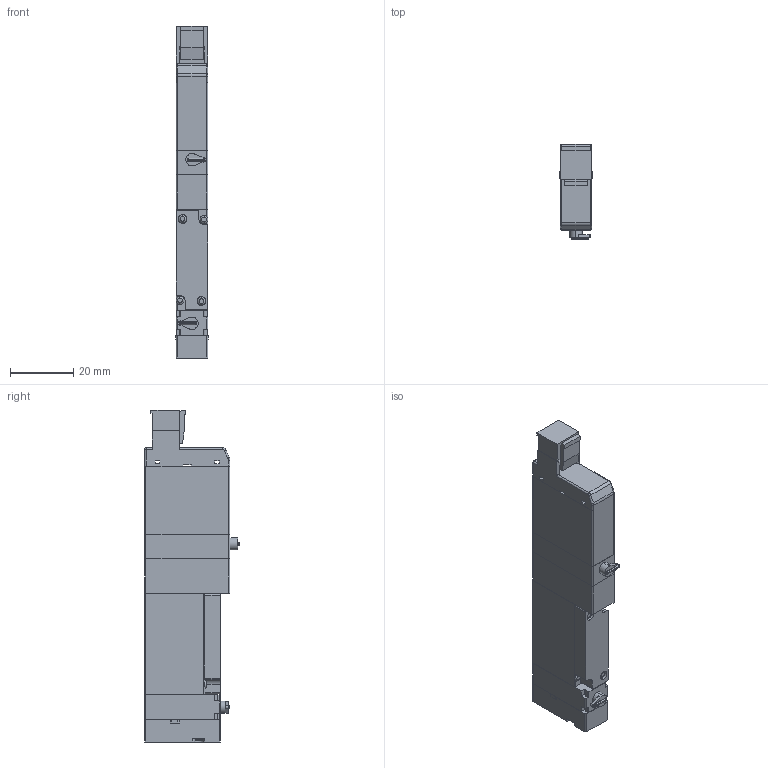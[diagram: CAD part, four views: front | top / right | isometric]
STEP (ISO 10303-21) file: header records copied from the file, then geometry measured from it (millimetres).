
FILE_DESCRIPTION( (''), '2;1');
FILE_NAME ('CVICAD02.13484.F10T3-R-A1-PS_6087.stp','2020-09-01T14:11:46',(''),(''),'spGate 12.6.6','','');
FILE_SCHEMA (('AUTOMOTIVE_DESIGN'));
Length unit declared in the file: millimetre
Products named in the file (8): Assembly; F10_Adptor; F10_Cap; F10T_Body; F10_SwitchBlock-R; F_3PortBody-R; F_Connector-PS; F10_A1
Assembly tree (7 placements, depth 2):
  Assembly
    F10_Adptor
    F10_Cap
    F10T_Body
    F10_SwitchBlock-R
    F_3PortBody-R
    F_Connector-PS
    F10_A1
Bounding box: 10.2 x 30 x 105 mm (x, y, z)
Volume: 24325.3 mm3; surface area: 11485.8 mm2
Topology: 7 solids, 7 shells, 301 faces, 768 edges, 488 vertices
Faces by surface type: plane 166, cylinder 105, bspline 20, sphere 10
Entity records: 15666 total; most frequent: CARTESIAN_POINT 1998, DIRECTION 1559, ORIENTED_EDGE 1516, COLOUR_RGB 1066, PRESENTATION_STYLE_ASSIGNMENT 1066, STYLED_ITEM 1066, EDGE_CURVE 758, DRAUGHTING_PRE_DEFINED_CURVE_FONT 758
